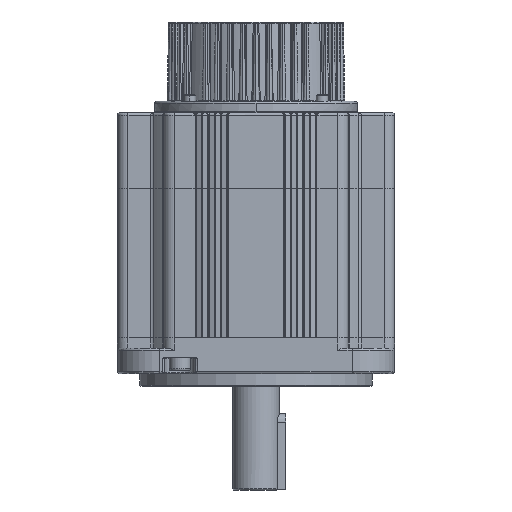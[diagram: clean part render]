
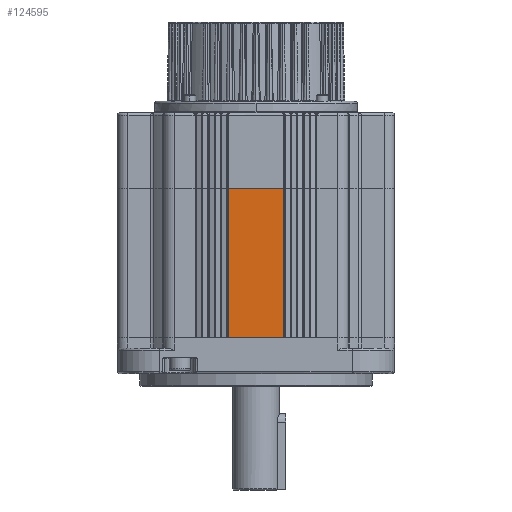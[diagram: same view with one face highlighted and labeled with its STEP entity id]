
A CAD part, front view. The second image highlights one B-rep face of the part: STEP entity #124595.
In plain terms, the highlighted planar face has unit normal (0, -1, 0).
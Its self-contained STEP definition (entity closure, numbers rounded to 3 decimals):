
#2326 = DIRECTION ( 'NONE',  ( -1., 0., 0. ) ) ;
#21536 = DIRECTION ( 'NONE',  ( 0., 0., -1. ) ) ;
#22506 = EDGE_LOOP ( 'NONE', ( #92854, #66057, #40174, #79537 ) ) ;
#24136 = LINE ( 'NONE', #90416, #116748 ) ;
#24474 = CARTESIAN_POINT ( 'NONE',  ( 0., -65.5, 0. ) ) ;
#29351 = CARTESIAN_POINT ( 'NONE',  ( 13.5, -65.5, 70.5 ) ) ;
#31000 = DIRECTION ( 'NONE',  ( 0., 0., 1. ) ) ;
#33538 = EDGE_CURVE ( 'NONE', #116407, #94297, #24136, .T. ) ;
#36805 = LINE ( 'NONE', #70500, #38660 ) ;
#38660 = VECTOR ( 'NONE', #21536, 1000. ) ;
#40174 = ORIENTED_EDGE ( 'NONE', *, *, #135936, .F. ) ;
#42523 = DIRECTION ( 'NONE',  ( 0., 1., 0. ) ) ;
#43079 = EDGE_CURVE ( 'NONE', #59196, #143383, #163549, .T. ) ;
#59196 = VERTEX_POINT ( 'NONE', #127849 ) ;
#66057 = ORIENTED_EDGE ( 'NONE', *, *, #33538, .T. ) ;
#70027 = CARTESIAN_POINT ( 'NONE',  ( 13.2, -65.5, 70.5 ) ) ;
#70500 = CARTESIAN_POINT ( 'NONE',  ( 13.2, -65.5, 70.5 ) ) ;
#70620 = VECTOR ( 'NONE', #112617, 1000. ) ;
#79537 = ORIENTED_EDGE ( 'NONE', *, *, #43079, .F. ) ;
#90416 = CARTESIAN_POINT ( 'NONE',  ( 13.5, -65.5, 70.5 ) ) ;
#92854 = ORIENTED_EDGE ( 'NONE', *, *, #103125, .F. ) ;
#94297 = VERTEX_POINT ( 'NONE', #131398 ) ;
#103125 = EDGE_CURVE ( 'NONE', #116407, #59196, #36805, .T. ) ;
#112617 = DIRECTION ( 'NONE',  ( -1., 0., 0. ) ) ;
#116407 = VERTEX_POINT ( 'NONE', #70027 ) ;
#116748 = VECTOR ( 'NONE', #2326, 1000. ) ;
#118033 = PLANE ( 'NONE',  #159019 ) ;
#120821 = FACE_OUTER_BOUND ( 'NONE', #22506, .T. ) ;
#124595 = ADVANCED_FACE ( 'NONE', ( #120821 ), #118033, .F. ) ;
#126981 = LINE ( 'NONE', #144859, #134945 ) ;
#127849 = CARTESIAN_POINT ( 'NONE',  ( 13.2, -65.5, 0. ) ) ;
#131398 = CARTESIAN_POINT ( 'NONE',  ( -13.2, -65.5, 70.5 ) ) ;
#134945 = VECTOR ( 'NONE', #145393, 1000. ) ;
#135936 = EDGE_CURVE ( 'NONE', #143383, #94297, #126981, .T. ) ;
#143383 = VERTEX_POINT ( 'NONE', #146146 ) ;
#144859 = CARTESIAN_POINT ( 'NONE',  ( -13.2, -65.5, 70.5 ) ) ;
#145393 = DIRECTION ( 'NONE',  ( 0., 0., 1. ) ) ;
#146146 = CARTESIAN_POINT ( 'NONE',  ( -13.2, -65.5, 0. ) ) ;
#159019 = AXIS2_PLACEMENT_3D ( 'NONE', #29351, #42523, #31000 ) ;
#163549 = LINE ( 'NONE', #24474, #70620 ) ;
